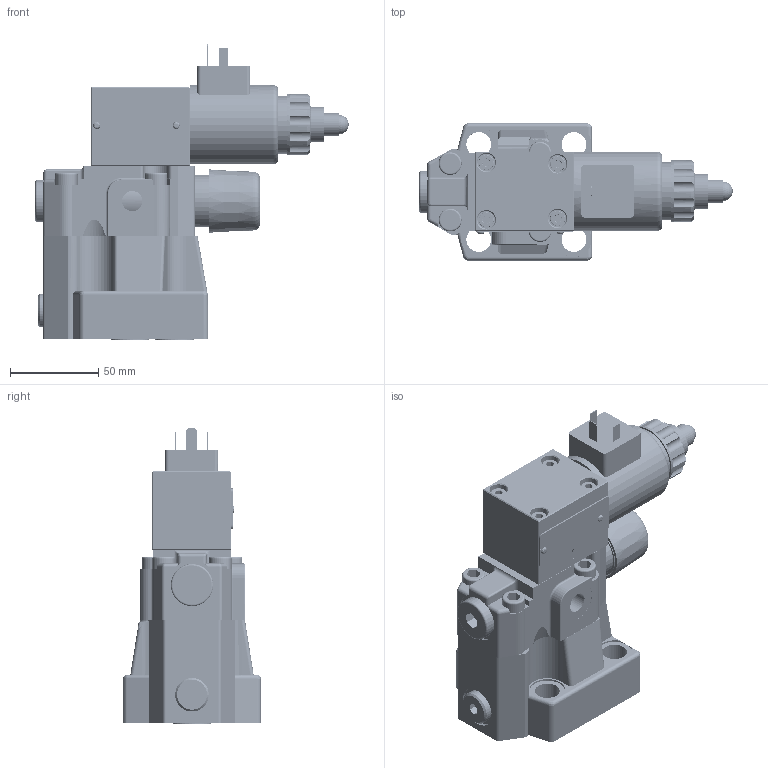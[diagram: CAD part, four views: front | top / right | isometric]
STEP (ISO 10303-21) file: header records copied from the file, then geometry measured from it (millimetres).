
FILE_DESCRIPTION(/* description */ (''),/* implementation_level */ '2;1');
FILE_NAME(/* name */ 'DBEM10-7XJ比例溢流阀.prt.stp',/* time_stamp */ '2022-03-30T18:38:09+08:00',/* author */ (''),/* organization */ (''),/* preprocessor_version */ 'ST-DEVELOPER v16.7',/* originating_system */ 'SIEMENS PLM Software NX 12.0',/* authorisation */ '');
FILE_SCHEMA (('AUTOMOTIVE_DESIGN { 1 0 10303 214 3 1 1 1 }'));
Products named in the file (1): DBEM10-7XJ比例溢流阀
Bounding box: 177.8 x 78 x 167.5 mm (x, y, z)
Volume: 691471.7 mm3; surface area: 150083.5 mm2
Topology: 32 solids, 38 shells, 1114 faces, 2845 edges, 1856 vertices
Faces by surface type: cylinder 546, plane 370, cone 82, bspline 67, torus 26, extrusion 17, sphere 4, revolution 2
Full cylindrical faces by diameter (mm): 1 x1, 1.8 x6, 2 x3, 3 x2, 3.4 x16, 4 x1, 4.3 x48, 5 x112, 5.5 x1, 5.6 x3, 6 x1, 7 x12, 7.49 x1, 8 x76, 8.4 x4, 8.5 x4, 10 x7, 11 x4, 11.5 x2, 12 x1, 12.2 x5, 12.5 x2, 13 x5, 14 x5, 14.8 x1, 15.39 x1, 16 x2, 16.8 x1, 17 x1, 18 x2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
Entity records: 121649 total; most frequent: CARTESIAN_POINT 102266, ORIENTED_EDGE 3578, DIRECTION 3530, EDGE_CURVE 1789, AXIS2_PLACEMENT_3D 1367, VERTEX_POINT 1261, EDGE_LOOP 1123, ADVANCED_FACE 846
